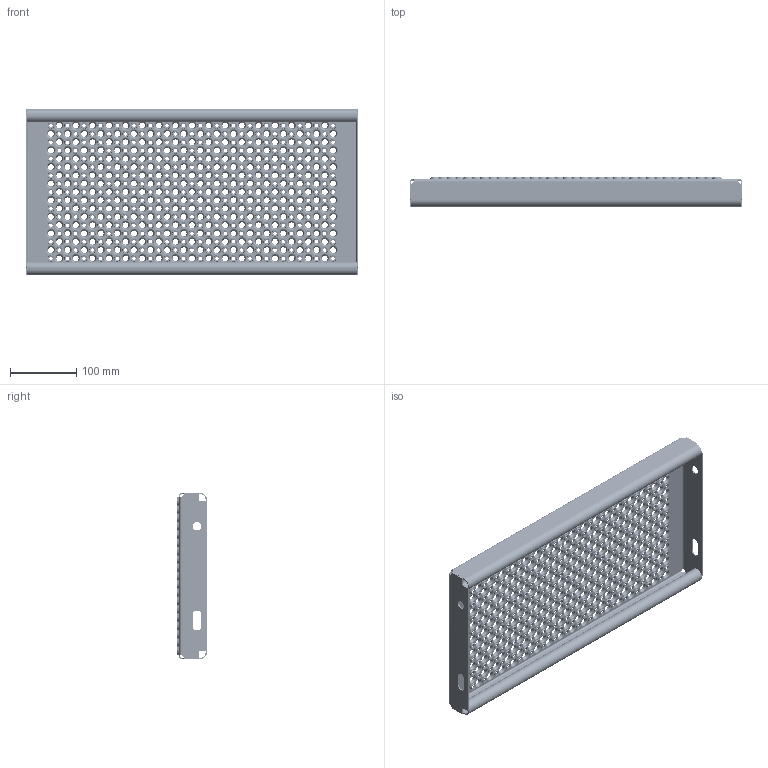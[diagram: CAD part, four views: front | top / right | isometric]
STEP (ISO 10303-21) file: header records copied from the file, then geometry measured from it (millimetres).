
FILE_DESCRIPTION (( 'STEP AP214' ), '1' );
FILE_NAME ('Achil_trin_250x500x45x2_mm.STEP', '2021-03-16T08:36:15', ( '' ), ( '' ), 'SwSTEP 2.0', 'SolidWorks 2021', '' );
FILE_SCHEMA (( 'AUTOMOTIVE_DESIGN' ));
Products named in the file (1): Achil_trin_250x500x45x2_mm
Bounding box: 500 x 45 x 250 mm (x, y, z)
Volume: 441940.4 mm3; surface area: 478701.9 mm2
Topology: 1 solids, 1 shells, 6732 faces, 17490 edges, 10760 vertices
Faces by surface type: cone 3990, torus 2660, plane 38, cylinder 36, bspline 8
Entity records: 214384 total; most frequent: DIRECTION 44264, CARTESIAN_POINT 35575, ORIENTED_EDGE 34980, AXIS2_PLACEMENT_3D 20081, EDGE_CURVE 17490, CIRCLE 13356, VERTEX_POINT 10760, EDGE_LOOP 8070
